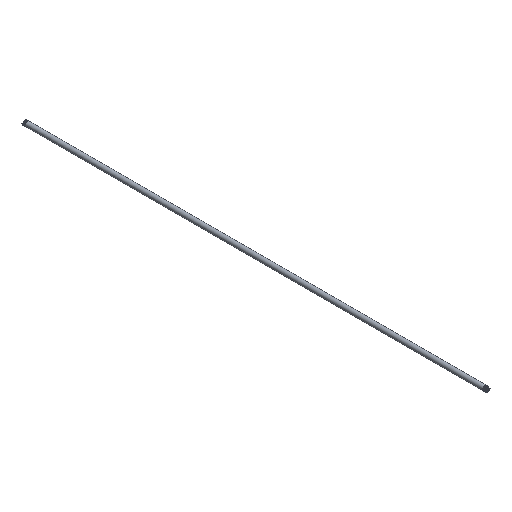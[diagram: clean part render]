
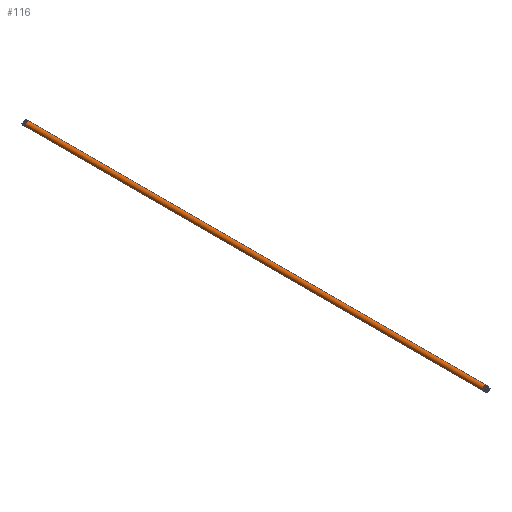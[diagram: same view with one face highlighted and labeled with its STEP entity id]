
A CAD part, isometric view. The second image highlights one B-rep face of the part: STEP entity #116.
In plain terms, the highlighted cylindrical face has radius 1.5 mm (diameter 3 mm), a full revolution.
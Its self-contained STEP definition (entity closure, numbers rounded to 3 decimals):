
#18=LINE('',#358,#20);
#20=VECTOR('',#181,1.5);
#22=CYLINDRICAL_SURFACE('',#153,1.5);
#26=FACE_OUTER_BOUND('',#34,.T.);
#34=EDGE_LOOP('',(#92,#93,#94,#95,#96));
#45=CIRCLE('',#145,1.5);
#46=CIRCLE('',#146,1.5);
#48=CIRCLE('',#149,1.5);
#53=VERTEX_POINT('',#192);
#54=VERTEX_POINT('',#193);
#56=VERTEX_POINT('',#274);
#61=EDGE_CURVE('',#53,#54,#45,.T.);
#62=EDGE_CURVE('',#54,#53,#46,.T.);
#66=EDGE_CURVE('',#56,#56,#48,.T.);
#72=EDGE_CURVE('',#54,#56,#18,.T.);
#92=ORIENTED_EDGE('',*,*,#61,.F.);
#93=ORIENTED_EDGE('',*,*,#62,.F.);
#94=ORIENTED_EDGE('',*,*,#72,.T.);
#95=ORIENTED_EDGE('',*,*,#66,.T.);
#96=ORIENTED_EDGE('',*,*,#72,.F.);
#116=ADVANCED_FACE('',(#26),#22,.T.);
#145=AXIS2_PLACEMENT_3D('',#194,#162,#163);
#146=AXIS2_PLACEMENT_3D('',#195,#164,#165);
#149=AXIS2_PLACEMENT_3D('',#275,#170,#171);
#153=AXIS2_PLACEMENT_3D('',#357,#179,#180);
#162=DIRECTION('center_axis',(0.,1.,0.));
#163=DIRECTION('ref_axis',(-1.,0.,0.));
#164=DIRECTION('center_axis',(0.,1.,0.));
#165=DIRECTION('ref_axis',(-1.,0.,0.));
#170=DIRECTION('center_axis',(0.,1.,0.));
#171=DIRECTION('ref_axis',(-1.,0.,0.));
#179=DIRECTION('center_axis',(0.,1.,0.));
#180=DIRECTION('ref_axis',(-1.,0.,0.));
#181=DIRECTION('',(0.,-1.,0.));
#192=CARTESIAN_POINT('',(-1.499,298.,0.001));
#193=CARTESIAN_POINT('',(1.5,298.,0.));
#194=CARTESIAN_POINT('Origin',(0.,298.,0.));
#195=CARTESIAN_POINT('Origin',(0.,298.,0.));
#274=CARTESIAN_POINT('',(1.499,1.6,0.));
#275=CARTESIAN_POINT('Origin',(0.,1.6,0.));
#357=CARTESIAN_POINT('Origin',(0.,1.6,0.));
#358=CARTESIAN_POINT('',(1.5,1.6,0.));
